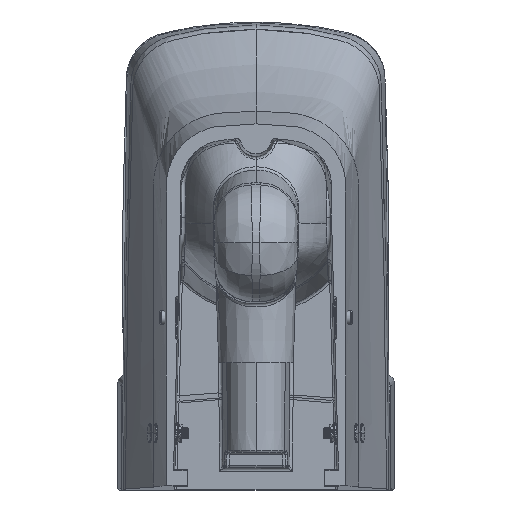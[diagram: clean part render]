
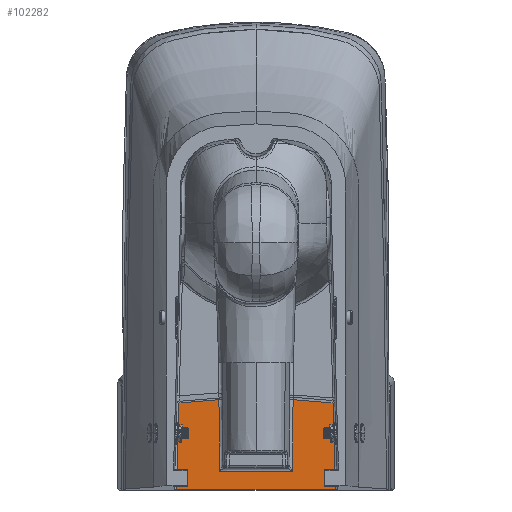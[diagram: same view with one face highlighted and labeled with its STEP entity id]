
A CAD part, front view. The second image highlights one B-rep face of the part: STEP entity #102282.
In plain terms, the highlighted planar face has unit normal (0, -1, -0.015).
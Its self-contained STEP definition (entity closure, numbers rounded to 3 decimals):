
#7033 = LINE ( 'NONE', #215421, #90699 ) ;
#12377 = CARTESIAN_POINT ( 'NONE',  ( -95.187, -29.803, -305.25 ) ) ;
#13999 = CARTESIAN_POINT ( 'NONE',  ( -56.422, -29.853, -301.987 ) ) ;
#18924 = CARTESIAN_POINT ( 'NONE',  ( -49.014, -28.385, -397.423 ) ) ;
#30540 = EDGE_CURVE ( 'NONE', #274363, #163253, #165144, .T. ) ;
#34823 = CARTESIAN_POINT ( 'NONE',  ( -106.315, -28.002, -422.319 ) ) ;
#42841 = FACE_OUTER_BOUND ( 'NONE', #48490, .T. ) ;
#48490 = EDGE_LOOP ( 'NONE', ( #55232, #53204, #245469, #164463, #252350, #131204, #245292, #174998 ) ) ;
#53204 = ORIENTED_EDGE ( 'NONE', *, *, #235154, .T. ) ;
#55232 = ORIENTED_EDGE ( 'NONE', *, *, #30540, .F. ) ;
#59107 = VECTOR ( 'NONE', #211676, 1000. ) ;
#65269 = EDGE_CURVE ( 'NONE', #163253, #305080, #107155, .T. ) ;
#67325 = CARTESIAN_POINT ( 'NONE',  ( -70.067, -29.838, -302.965 ) ) ;
#69481 = CARTESIAN_POINT ( 'NONE',  ( -106.312, -28.003, -422.236 ) ) ;
#69685 = EDGE_CURVE ( 'NONE', #101177, #221668, #92074, .T. ) ;
#89059 = CARTESIAN_POINT ( 'NONE',  ( -63.247, -29.846, -302.438 ) ) ;
#89105 = DIRECTION ( 'NONE',  ( -1., 0., 0. ) ) ;
#90699 = VECTOR ( 'NONE', #217068, 1000. ) ;
#92074 = LINE ( 'NONE', #142192, #296863 ) ;
#95385 = DIRECTION ( 'NONE',  ( -0.006, 0.015, -1. ) ) ;
#98757 = VERTEX_POINT ( 'NONE', #318719 ) ;
#99676 = CARTESIAN_POINT ( 'NONE',  ( 67.446, -29.844, -302.59 ) ) ;
#99719 = AXIS2_PLACEMENT_3D ( 'NONE', #319842, #144637, #139743 ) ;
#101177 = VERTEX_POINT ( 'NONE', #249040 ) ;
#102282 = ADVANCED_FACE ( 'NONE', ( #42841 ), #163159, .F. ) ;
#107155 = LINE ( 'NONE', #259104, #179492 ) ;
#119014 = CARTESIAN_POINT ( 'NONE',  ( -99.144, -29.796, -305.676 ) ) ;
#131204 = ORIENTED_EDGE ( 'NONE', *, *, #69685, .T. ) ;
#134954 = LINE ( 'NONE', #34823, #59107 ) ;
#139743 = DIRECTION ( 'NONE',  ( 0., -0.015, 1. ) ) ;
#142192 = CARTESIAN_POINT ( 'NONE',  ( 49.592, -29.859, -301.613 ) ) ;
#144637 = DIRECTION ( 'NONE',  ( 0., 1., 0.015 ) ) ;
#145709 = B_SPLINE_CURVE_WITH_KNOTS ( 'NONE', 3,
 ( #176470, #283223, #99676, #203102 ),
 .UNSPECIFIED., .F., .F.,
 ( 4, 4 ),
 ( 0.358, 1. ),
 .UNSPECIFIED. ) ;
#147363 = CARTESIAN_POINT ( 'NONE',  ( 103.111, -29.783, -306.558 ) ) ;
#155484 = VERTEX_POINT ( 'NONE', #253725 ) ;
#163159 = PLANE ( 'NONE',  #99719 ) ;
#163253 = VERTEX_POINT ( 'NONE', #179446 ) ;
#164463 = ORIENTED_EDGE ( 'NONE', *, *, #231404, .T. ) ;
#165144 = B_SPLINE_CURVE_WITH_KNOTS ( 'NONE', 3,
 ( #215868, #119014, #12377, #197390, #317641, #170750, #67325, #89059, #13999, #195743 ),
 .UNSPECIFIED., .F., .F.,
 ( 4, 3, 3, 4 ),
 ( 0.359, 0.501, 0.755, 1. ),
 .UNSPECIFIED. ) ;
#170750 = CARTESIAN_POINT ( 'NONE',  ( -77.128, -29.829, -303.512 ) ) ;
#172387 = LINE ( 'NONE', #147363, #207885 ) ;
#174998 = ORIENTED_EDGE ( 'NONE', *, *, #65269, .F. ) ;
#176470 = CARTESIAN_POINT ( 'NONE',  ( 103.099, -29.789, -306.127 ) ) ;
#179446 = CARTESIAN_POINT ( 'NONE',  ( -49.592, -29.859, -301.613 ) ) ;
#179492 = VECTOR ( 'NONE', #185598, 1000. ) ;
#185598 = DIRECTION ( 'NONE',  ( 0.006, 0.015, -1. ) ) ;
#195743 = CARTESIAN_POINT ( 'NONE',  ( -49.592, -29.859, -301.613 ) ) ;
#197390 = CARTESIAN_POINT ( 'NONE',  ( -91.226, -29.809, -304.851 ) ) ;
#203102 = CARTESIAN_POINT ( 'NONE',  ( 49.592, -29.859, -301.613 ) ) ;
#207885 = VECTOR ( 'NONE', #249173, 1000. ) ;
#211676 = DIRECTION ( 'NONE',  ( -0.028, 0.015, -0.999 ) ) ;
#215421 = CARTESIAN_POINT ( 'NONE',  ( -182.011, -28.003, -422.236 ) ) ;
#215868 = CARTESIAN_POINT ( 'NONE',  ( -103.099, -29.789, -306.127 ) ) ;
#217068 = DIRECTION ( 'NONE',  ( -1., 0., 0. ) ) ;
#221668 = VERTEX_POINT ( 'NONE', #271819 ) ;
#230432 = EDGE_CURVE ( 'NONE', #98757, #287926, #7033, .T. ) ;
#231404 = EDGE_CURVE ( 'NONE', #98757, #155484, #172387, .T. ) ;
#235154 = EDGE_CURVE ( 'NONE', #274363, #287926, #134954, .T. ) ;
#237107 = EDGE_CURVE ( 'NONE', #155484, #101177, #145709, .T. ) ;
#244742 = CARTESIAN_POINT ( 'NONE',  ( -103.099, -29.789, -306.127 ) ) ;
#245292 = ORIENTED_EDGE ( 'NONE', *, *, #326864, .T. ) ;
#245469 = ORIENTED_EDGE ( 'NONE', *, *, #230432, .F. ) ;
#249040 = CARTESIAN_POINT ( 'NONE',  ( 49.592, -29.859, -301.613 ) ) ;
#249173 = DIRECTION ( 'NONE',  ( -0.028, -0.015, 0.999 ) ) ;
#252350 = ORIENTED_EDGE ( 'NONE', *, *, #237107, .T. ) ;
#253725 = CARTESIAN_POINT ( 'NONE',  ( 103.099, -29.789, -306.127 ) ) ;
#254831 = VECTOR ( 'NONE', #89105, 1000. ) ;
#255839 = CARTESIAN_POINT ( 'NONE',  ( -48.982, -28.385, -397.423 ) ) ;
#259104 = CARTESIAN_POINT ( 'NONE',  ( -49.592, -29.859, -301.613 ) ) ;
#271819 = CARTESIAN_POINT ( 'NONE',  ( 48.982, -28.385, -397.423 ) ) ;
#274363 = VERTEX_POINT ( 'NONE', #244742 ) ;
#283223 = CARTESIAN_POINT ( 'NONE',  ( 85.281, -29.82, -304.094 ) ) ;
#287926 = VERTEX_POINT ( 'NONE', #69481 ) ;
#296863 = VECTOR ( 'NONE', #95385, 1000. ) ;
#305080 = VERTEX_POINT ( 'NONE', #255839 ) ;
#317641 = CARTESIAN_POINT ( 'NONE',  ( -84.183, -29.82, -304.141 ) ) ;
#317685 = LINE ( 'NONE', #18924, #254831 ) ;
#318719 = CARTESIAN_POINT ( 'NONE',  ( 106.312, -28.003, -422.236 ) ) ;
#319842 = CARTESIAN_POINT ( 'NONE',  ( -137.871, -28.003, -422.236 ) ) ;
#326864 = EDGE_CURVE ( 'NONE', #221668, #305080, #317685, .T. ) ;
